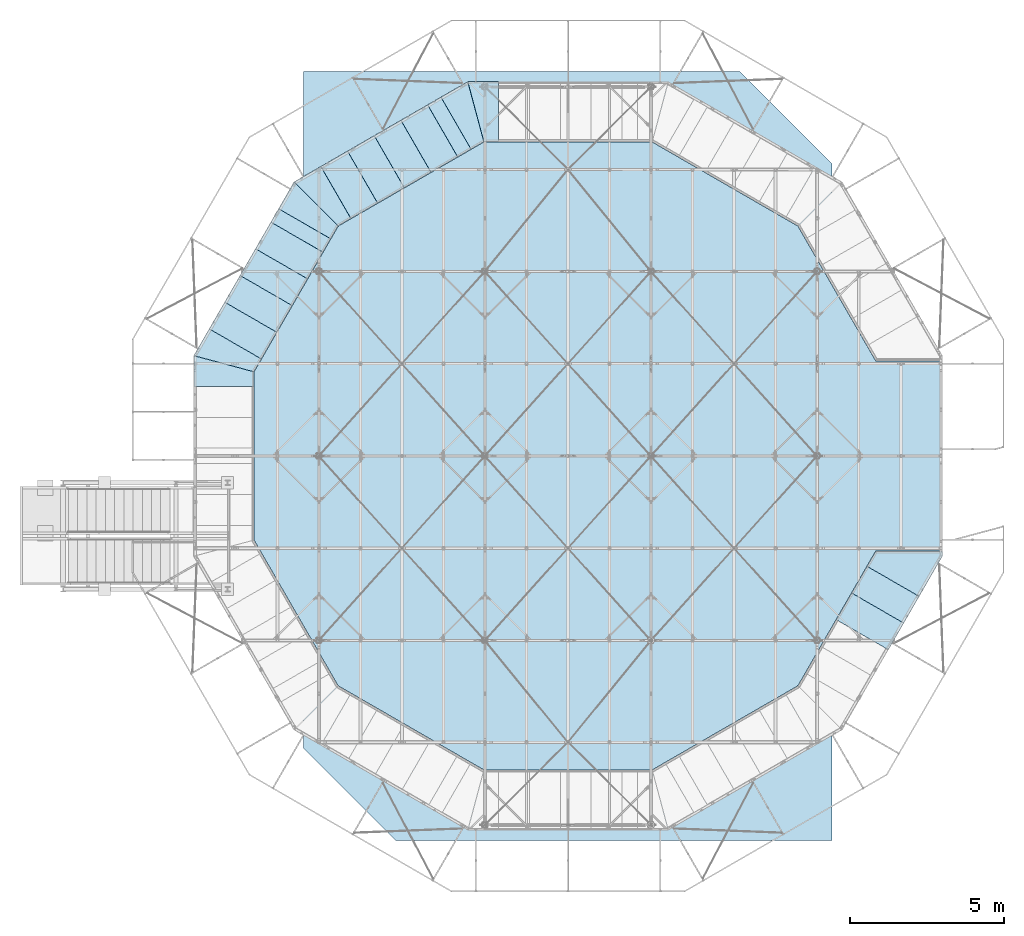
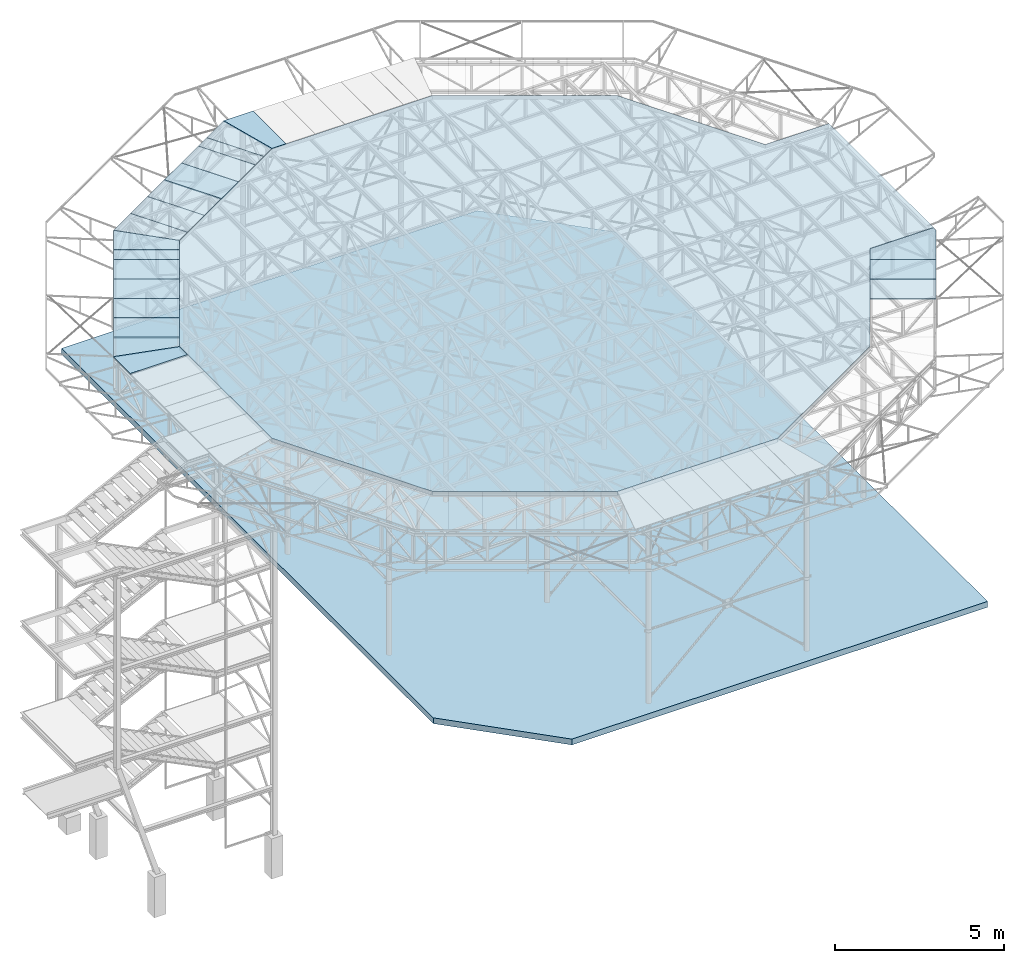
# One storey, part 32 of 132: 39 plates, 1 slab, 40 elements without a shape of their own.
"""IFC2X3 building model written with IfcOpenShell, lengths in millimetres."""

from ifc_helpers import new_model, si_unit, frame, origin_with_axes, place, context, subcontext, project, spatial, polyline, outline, extrude, material, type_object, element, aggregate, save


model = new_model("IFC2X3")

# Units and contexts
model_context = context("Model", 3, precision=1e-05, world=origin_with_axes())
body_context = subcontext(model_context, "Body", "Model", "MODEL_VIEW")
ifc_project = project(units=[si_unit("LENGTHUNIT", "METRE", prefix="MILLI"), si_unit("AREAUNIT", "SQUARE_METRE"), si_unit("VOLUMEUNIT", "CUBIC_METRE"), si_unit("MASSUNIT", "GRAM", prefix="KILO"), si_unit("TIMEUNIT", "SECOND"), si_unit("PLANEANGLEUNIT", "RADIAN"), si_unit("SOLIDANGLEUNIT", "STERADIAN"), si_unit("THERMODYNAMICTEMPERATUREUNIT", "DEGREE_CELSIUS"), si_unit("LUMINOUSINTENSITYUNIT", "LUMEN")], contexts=[model_context])

# Site, building, storey
site_placement = place(None, origin_with_axes())
site = spatial("IfcSite", under=ifc_project, at=site_placement, Name="Budowa", CompositionType="ELEMENT")
building_placement = place(site_placement, origin_with_axes())
building = spatial("IfcBuilding", under=site, at=building_placement, Name="Undefined", CompositionType="ELEMENT")
storey_placement = place(building_placement, origin_with_axes())
storey = spatial("IfcBuildingStorey", under=building, at=storey_placement, Name="Undefined", CompositionType="ELEMENT", Elevation=0.0)

# Assembly, plate
assembly_1_placement = place(storey_placement, origin_with_axes())
assembly_1 = element("IfcElementAssembly", 1, at=assembly_1_placement, inside=storey, Name="Steel Assembly", AssemblyPlace="NOTDEFINED", PredefinedType="RIGID_FRAME")
ifc_material_1 = material(Name="STEEL/S235")
plate_type_1 = type_object("IfcPlateType", Name="BL2*1461", PredefinedType="NOTDEFINED")
plate_1_placement = place(assembly_1_placement, frame((21851.4200037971, 8410.57971265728, 14031.0), z_axis=(0.0, 0.0, 1.0), x_axis=(0.866023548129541, -0.500003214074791, 0.0)))
plate_1 = element("IfcPlate", 2, at=plate_1_placement, type_object=plate_type_1, material=ifc_material_1, Name="BLACHA RYFLOWANA", ObjectType="BL2*1461", context=body_context, shape_type="SweptSolid", body=[
    extrude(outline(polyline([(0.0, 0.0), (1950.9999999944, -2.23008100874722e-09), (1951.0001220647, 1505.99999999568), (1872.65209960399, 1641.70166015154), (-0.0387191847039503, 560.493896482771), (0.0, 0.0)])), frame((0.0, 0.0, -0.999999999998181), z_axis=(0.0, 0.0, 1.0), x_axis=(1.0, 0.0, 0.0)), (0.0, 0.0, 1.0), 2.0),
])
aggregate(assembly_1, [plate_1])

assembly_2_placement = place(storey_placement, origin_with_axes())
assembly_2 = element("IfcElementAssembly", 3, at=assembly_2_placement, inside=storey, Name="Steel Assembly", AssemblyPlace="NOTDEFINED", PredefinedType="RIGID_FRAME")
plate_type_2 = type_object("IfcPlateType", Name="BL2*1000", PredefinedType="NOTDEFINED")
plate_2_placement = place(assembly_2_placement, frame((4088.83603764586, 21411.8602062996, 14031.0000000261), z_axis=(0.0, 0.0, -1.0), x_axis=(0.86604520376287, 0.499965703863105, 0.0)))
plate_2 = element("IfcPlate", 4, at=plate_2_placement, type_object=plate_type_2, material=ifc_material_1, Name="BLACHA RYFLOWANA", ObjectType="BL2*1000", context=body_context, shape_type="SweptSolid", body=[
    extrude(outline(polyline([(0.0, 0.0), (999.999999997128, 3.78349795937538e-10), (999.99999999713, 1950.9999999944), (-9.92986315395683e-09, 1950.9999999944), (0.0, 0.0)])), frame((0.0, 0.0, -0.999999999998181), z_axis=(0.0, 0.0, 1.0), x_axis=(1.0, 0.0, 0.0)), (0.0, 0.0, 1.0), 2.0),
])
aggregate(assembly_2, [plate_2])

assembly_3_placement = place(storey_placement, origin_with_axes())
assembly_3 = element("IfcElementAssembly", 5, at=assembly_3_placement, inside=storey, Name="Steel Assembly", AssemblyPlace="NOTDEFINED", PredefinedType="RIGID_FRAME")
plate_3_placement = place(assembly_3_placement, frame((4956.61333183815, 21912.8258415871, 14031.0000000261), z_axis=(0.0, 0.0, -1.0), x_axis=(0.86604520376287, 0.499965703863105, 0.0)))
plate_3 = element("IfcPlate", 6, at=plate_3_placement, type_object=plate_type_2, material=ifc_material_1, Name="BLACHA RYFLOWANA", ObjectType="BL2*1000", context=body_context, shape_type="SweptSolid", body=[
    extrude(outline(polyline([(0.0, 0.0), (999.999999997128, 3.78349795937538e-10), (999.99999999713, 1950.9999999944), (-9.92986315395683e-09, 1950.9999999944), (0.0, 0.0)])), frame((0.0, 0.0, -0.999999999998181), z_axis=(0.0, 0.0, 1.0), x_axis=(1.0, 0.0, 0.0)), (0.0, 0.0, 1.0), 2.0),
])
aggregate(assembly_3, [plate_3])

assembly_4_placement = place(storey_placement, origin_with_axes())
assembly_4 = element("IfcElementAssembly", 7, at=assembly_4_placement, inside=storey, Name="Steel Assembly", AssemblyPlace="NOTDEFINED", PredefinedType="RIGID_FRAME")
plate_4_placement = place(assembly_4_placement, frame((5824.39062602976, 22413.7914768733, 14031.0000000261), z_axis=(0.0, 0.0, -1.0), x_axis=(0.86604520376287, 0.499965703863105, 0.0)))
plate_4 = element("IfcPlate", 8, at=plate_4_placement, type_object=plate_type_2, material=ifc_material_1, Name="BLACHA RYFLOWANA", ObjectType="BL2*1000", context=body_context, shape_type="SweptSolid", body=[
    extrude(outline(polyline([(0.0, 0.0), (999.999999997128, 3.78349795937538e-10), (999.99999999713, 1950.9999999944), (-9.92986315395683e-09, 1950.9999999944), (0.0, 0.0)])), frame((0.0, 0.0, -0.999999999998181), z_axis=(0.0, 0.0, 1.0), x_axis=(1.0, 0.0, 0.0)), (0.0, 0.0, 1.0), 2.0),
])
aggregate(assembly_4, [plate_4])

assembly_5_placement = place(storey_placement, origin_with_axes())
assembly_5 = element("IfcElementAssembly", 9, at=assembly_5_placement, inside=storey, Name="Steel Assembly", AssemblyPlace="NOTDEFINED", PredefinedType="RIGID_FRAME")
plate_5_placement = place(assembly_5_placement, frame((6692.16792022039, 22914.7571121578, 14031.0000000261), z_axis=(0.0, 0.0, -1.0), x_axis=(0.86604520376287, 0.499965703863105, 0.0)))
plate_5 = element("IfcPlate", 10, at=plate_5_placement, type_object=plate_type_2, material=ifc_material_1, Name="BLACHA RYFLOWANA", ObjectType="BL2*1000", context=body_context, shape_type="SweptSolid", body=[
    extrude(outline(polyline([(0.0, 0.0), (999.999999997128, 3.78349795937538e-10), (999.99999999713, 1950.9999999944), (-9.92986315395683e-09, 1950.9999999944), (0.0, 0.0)])), frame((0.0, 0.0, -0.999999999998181), z_axis=(0.0, 0.0, 1.0), x_axis=(1.0, 0.0, 0.0)), (0.0, 0.0, 1.0), 2.0),
])
aggregate(assembly_5, [plate_5])

assembly_6_placement = place(storey_placement, origin_with_axes())
assembly_6 = element("IfcElementAssembly", 11, at=assembly_6_placement, inside=storey, Name="Steel Assembly", AssemblyPlace="NOTDEFINED", PredefinedType="RIGID_FRAME")
plate_6_placement = place(assembly_6_placement, frame((459.486653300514, 16132.8170373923, 14031.0000000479), z_axis=(0.0, 0.0, -1.0), x_axis=(0.500003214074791, 0.866023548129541, 0.0)))
plate_6 = element("IfcPlate", 12, at=plate_6_placement, type_object=plate_type_2, material=ifc_material_1, Name="BLACHA RYFLOWANA", ObjectType="BL2*1000", context=body_context, shape_type="SweptSolid", body=[
    extrude(outline(polyline([(0.0, 0.0), (999.999999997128, 3.78349795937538e-10), (999.99999999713, 1950.9999999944), (-9.92986315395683e-09, 1950.9999999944), (0.0, 0.0)])), frame((0.0, 0.0, -0.999999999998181), z_axis=(0.0, 0.0, 1.0), x_axis=(1.0, 0.0, 0.0)), (0.0, 0.0, 1.0), 2.0),
])
aggregate(assembly_6, [plate_6])

assembly_7_placement = place(storey_placement, origin_with_axes())
assembly_7 = element("IfcElementAssembly", 13, at=assembly_7_placement, inside=storey, Name="Steel Assembly", AssemblyPlace="NOTDEFINED", PredefinedType="RIGID_FRAME")
plate_7_placement = place(assembly_7_placement, frame((960.489873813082, 17000.572632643, 14031.0000000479), z_axis=(0.0, 0.0, -1.0), x_axis=(0.500003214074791, 0.866023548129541, 0.0)))
plate_7 = element("IfcPlate", 14, at=plate_7_placement, type_object=plate_type_2, material=ifc_material_1, Name="BLACHA RYFLOWANA", ObjectType="BL2*1000", context=body_context, shape_type="SweptSolid", body=[
    extrude(outline(polyline([(0.0, 0.0), (999.999999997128, 3.78349795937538e-10), (999.99999999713, 1950.9999999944), (-9.92986315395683e-09, 1950.9999999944), (0.0, 0.0)])), frame((0.0, 0.0, -0.999999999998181), z_axis=(0.0, 0.0, 1.0), x_axis=(1.0, 0.0, 0.0)), (0.0, 0.0, 1.0), 2.0),
])
aggregate(assembly_7, [plate_7])

assembly_8_placement = place(storey_placement, origin_with_axes())
assembly_8 = element("IfcElementAssembly", 15, at=assembly_8_placement, inside=storey, Name="Steel Assembly", AssemblyPlace="NOTDEFINED", PredefinedType="RIGID_FRAME")
plate_8_placement = place(assembly_8_placement, frame((1461.49309432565, 17868.3282278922, 14031.0000000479), z_axis=(0.0, 0.0, -1.0), x_axis=(0.500003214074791, 0.866023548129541, 0.0)))
plate_8 = element("IfcPlate", 16, at=plate_8_placement, type_object=plate_type_2, material=ifc_material_1, Name="BLACHA RYFLOWANA", ObjectType="BL2*1000", context=body_context, shape_type="SweptSolid", body=[
    extrude(outline(polyline([(0.0, 0.0), (999.999999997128, 3.78349795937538e-10), (999.99999999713, 1950.9999999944), (-9.92986315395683e-09, 1950.9999999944), (0.0, 0.0)])), frame((0.0, 0.0, -0.999999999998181), z_axis=(0.0, 0.0, 1.0), x_axis=(1.0, 0.0, 0.0)), (0.0, 0.0, 1.0), 2.0),
])
aggregate(assembly_8, [plate_8])

assembly_9_placement = place(storey_placement, origin_with_axes())
assembly_9 = element("IfcElementAssembly", 17, at=assembly_9_placement, inside=storey, Name="Steel Assembly", AssemblyPlace="NOTDEFINED", PredefinedType="RIGID_FRAME")
plate_9_placement = place(assembly_9_placement, frame((1962.49631483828, 18736.0838231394, 14031.0000000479), z_axis=(0.0, 0.0, -1.0), x_axis=(0.500003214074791, 0.866023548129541, 0.0)))
plate_9 = element("IfcPlate", 18, at=plate_9_placement, type_object=plate_type_2, material=ifc_material_1, Name="BLACHA RYFLOWANA", ObjectType="BL2*1000", context=body_context, shape_type="SweptSolid", body=[
    extrude(outline(polyline([(0.0, 0.0), (999.999999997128, 3.78349795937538e-10), (999.99999999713, 1950.9999999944), (-9.92986315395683e-09, 1950.9999999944), (0.0, 0.0)])), frame((0.0, 0.0, -0.999999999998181), z_axis=(0.0, 0.0, 1.0), x_axis=(1.0, 0.0, 0.0)), (0.0, 0.0, 1.0), 2.0),
])
aggregate(assembly_9, [plate_9])

assembly_10_placement = place(storey_placement, origin_with_axes())
assembly_10 = element("IfcElementAssembly", 19, at=assembly_10_placement, inside=storey, Name="Steel Assembly", AssemblyPlace="NOTDEFINED", PredefinedType="RIGID_FRAME")
plate_10_placement = place(assembly_10_placement, frame((23539.5117330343, 7432.44016693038, 14031.0), z_axis=(0.0, 0.0, -1.0), x_axis=(-0.500003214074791, -0.866023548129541, 0.0)))
plate_10 = element("IfcPlate", 20, at=plate_10_placement, type_object=plate_type_2, material=ifc_material_1, Name="BLACHA RYFLOWANA", ObjectType="BL2*1000", context=body_context, shape_type="SweptSolid", body=[
    extrude(outline(polyline([(0.0, 0.0), (999.999999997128, 3.78349795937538e-10), (999.99999999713, 1950.9999999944), (-9.92986315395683e-09, 1950.9999999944), (0.0, 0.0)])), frame((0.0, 0.0, -0.999999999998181), z_axis=(0.0, 0.0, 1.0), x_axis=(1.0, 0.0, 0.0)), (0.0, 0.0, 1.0), 2.0),
])
aggregate(assembly_10, [plate_10])

assembly_11_placement = place(storey_placement, origin_with_axes())
assembly_11 = element("IfcElementAssembly", 21, at=assembly_11_placement, inside=storey, Name="Steel Assembly", AssemblyPlace="NOTDEFINED", PredefinedType="RIGID_FRAME")
plate_11_placement = place(assembly_11_placement, frame((23038.5085125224, 6564.68457168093, 14031.0), z_axis=(0.0, 0.0, -1.0), x_axis=(-0.500003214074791, -0.866023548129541, 0.0)))
plate_11 = element("IfcPlate", 22, at=plate_11_placement, type_object=plate_type_2, material=ifc_material_1, Name="BLACHA RYFLOWANA", ObjectType="BL2*1000", context=body_context, shape_type="SweptSolid", body=[
    extrude(outline(polyline([(0.0, 0.0), (999.999999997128, 3.78349795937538e-10), (999.99999999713, 1950.9999999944), (-9.92986315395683e-09, 1950.9999999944), (0.0, 0.0)])), frame((0.0, 0.0, -0.999999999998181), z_axis=(0.0, 0.0, 1.0), x_axis=(1.0, 0.0, 0.0)), (0.0, 0.0, 1.0), 2.0),
])
aggregate(assembly_11, [plate_11])

assembly_12_placement = place(storey_placement, origin_with_axes())
assembly_12 = element("IfcElementAssembly", 23, at=assembly_12_placement, inside=storey, Name="Steel Assembly", AssemblyPlace="NOTDEFINED", PredefinedType="RIGID_FRAME")
plate_type_3 = type_object("IfcPlateType", Name="BL2*1002", PredefinedType="NOTDEFINED")
plate_12_placement = place(assembly_12_placement, frame((8969.41828278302, 21976.7536121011, 14031.0000000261), z_axis=(0.0, 0.0, 1.0), x_axis=(0.86604520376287, 0.499965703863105, 0.0)))
plate_12 = element("IfcPlate", 24, at=plate_12_placement, type_object=plate_type_3, material=ifc_material_1, Name="BLACHA RYFLOWANA", ObjectType="BL2*1002", context=body_context, shape_type="SweptSolid", body=[
    extrude(outline(polyline([(0.0, 0.0), (481.607696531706, 5.82076609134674e-10), (1002.48809814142, 1950.90051268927), (-3.37786332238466e-08, 1950.90051268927), (0.0, 0.0)])), frame((0.0, 0.0, -0.999999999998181), z_axis=(0.0, 0.0, 1.0), x_axis=(1.0, 0.0, 0.0)), (0.0, 0.0, 1.0), 2.0),
])
aggregate(assembly_12, [plate_12])

assembly_13_placement = place(storey_placement, origin_with_axes())
assembly_13 = element("IfcElementAssembly", 25, at=assembly_13_placement, inside=storey, Name="Steel Assembly", AssemblyPlace="NOTDEFINED", PredefinedType="RIGID_FRAME")
plate_13_placement = place(assembly_13_placement, frame((9869.09565694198, 22218.000512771, 14031.0000000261), z_axis=(0.0, 0.0, -1.0), x_axis=(-1.0, 0.0, 0.0)))
plate_13 = element("IfcPlate", 26, at=plate_13_placement, type_object=plate_type_3, material=ifc_material_1, Name="BLACHA RYFLOWANA", ObjectType="BL2*1002", context=body_context, shape_type="SweptSolid", body=[
    extrude(outline(polyline([(0.0, 0.0), (481.607696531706, 5.82076609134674e-10), (1002.48809814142, 1950.90051268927), (-3.37786332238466e-08, 1950.90051268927), (0.0, 0.0)])), frame((0.0, 0.0, -0.999999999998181), z_axis=(0.0, 0.0, 1.0), x_axis=(1.0, 0.0, 0.0)), (0.0, 0.0, 1.0), 2.0),
])
aggregate(assembly_13, [plate_13])

assembly_14_placement = place(storey_placement, origin_with_axes())
assembly_14 = element("IfcElementAssembly", 27, at=assembly_14_placement, inside=storey, Name="Steel Assembly", AssemblyPlace="NOTDEFINED", PredefinedType="RIGID_FRAME")
plate_14_placement = place(assembly_14_placement, frame((2147.72417326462, 15155.1291909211, 14031.0000000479), z_axis=(0.0, 0.0, -1.0), x_axis=(-0.500003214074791, -0.866023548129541, 0.0)))
plate_14 = element("IfcPlate", 28, at=plate_14_placement, type_object=plate_type_3, material=ifc_material_1, Name="BLACHA RYFLOWANA", ObjectType="BL2*1002", context=body_context, shape_type="SweptSolid", body=[
    extrude(outline(polyline([(0.0, 0.0), (481.607696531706, 5.82076609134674e-10), (1002.48809814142, 1950.90051268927), (-3.37786332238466e-08, 1950.90051268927), (0.0, 0.0)])), frame((0.0, 0.0, -0.999999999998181), z_axis=(0.0, 0.0, 1.0), x_axis=(1.0, 0.0, 0.0)), (0.0, 0.0, 1.0), 2.0),
])
aggregate(assembly_14, [plate_14])

assembly_15_placement = place(storey_placement, origin_with_axes())
assembly_15 = element("IfcElementAssembly", 29, at=assembly_15_placement, inside=storey, Name="Steel Assembly", AssemblyPlace="NOTDEFINED", PredefinedType="RIGID_FRAME")
plate_15_placement = place(assembly_15_placement, frame((4403.26129690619, 19062.5593450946, 14031.0000000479), z_axis=(0.0, 0.0, 1.0), x_axis=(0.500336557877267, 0.865831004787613, 0.0)))
plate_15 = element("IfcPlate", 30, at=plate_15_placement, type_object=plate_type_3, material=ifc_material_1, Name="BLACHA RYFLOWANA", ObjectType="BL2*1002", context=body_context, shape_type="SweptSolid", body=[
    extrude(outline(polyline([(0.0, 0.0), (481.607696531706, 5.82076609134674e-10), (1002.48809814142, 1950.90051268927), (-3.37786332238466e-08, 1950.90051268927), (0.0, 0.0)])), frame((0.0, 0.0, -0.999999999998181), z_axis=(0.0, 0.0, 1.0), x_axis=(1.0, 0.0, 0.0)), (0.0, 0.0, 1.0), 2.0),
])
aggregate(assembly_15, [plate_15])

assembly_16_placement = place(storey_placement, origin_with_axes())
assembly_16 = element("IfcElementAssembly", 31, at=assembly_16_placement, inside=storey, Name="Steel Assembly", AssemblyPlace="NOTDEFINED", PredefinedType="RIGID_FRAME")
plate_16_placement = place(assembly_16_placement, frame((5061.98801008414, 19721.004006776, 14031.0000000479), z_axis=(0.0, 0.0, -1.0), x_axis=(-0.866045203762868, -0.499965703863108, 0.0)))
plate_16 = element("IfcPlate", 32, at=plate_16_placement, type_object=plate_type_3, material=ifc_material_1, Name="BLACHA RYFLOWANA", ObjectType="BL2*1002", context=body_context, shape_type="SweptSolid", body=[
    extrude(outline(polyline([(0.0, 0.0), (481.607696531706, 5.82076609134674e-10), (1002.48809814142, 1950.90051268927), (-3.37786332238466e-08, 1950.90051268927), (0.0, 0.0)])), frame((0.0, 0.0, -0.999999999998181), z_axis=(0.0, 0.0, 1.0), x_axis=(1.0, 0.0, 0.0)), (0.0, 0.0, 1.0), 2.0),
])
aggregate(assembly_16, [plate_16])

assembly_17_placement = place(storey_placement, origin_with_axes())
assembly_17 = element("IfcElementAssembly", 33, at=assembly_17_placement, inside=storey, Name="Steel Assembly", AssemblyPlace="NOTDEFINED", PredefinedType="RIGID_FRAME")
plate_17_placement = place(assembly_17_placement, frame((1906.99979081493, 14255.4675914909, 14031.0000000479), z_axis=(0.0, 0.0, 1.0), x_axis=(0.000358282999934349, 0.999999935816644, 0.0)))
plate_17 = element("IfcPlate", 34, at=plate_17_placement, type_object=plate_type_3, material=ifc_material_1, Name="BLACHA RYFLOWANA", ObjectType="BL2*1002", context=body_context, shape_type="SweptSolid", body=[
    extrude(outline(polyline([(0.0, 0.0), (481.607696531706, 5.82076609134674e-10), (1002.48809814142, 1950.90051268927), (-3.37786332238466e-08, 1950.90051268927), (0.0, 0.0)])), frame((0.0, 0.0, -0.999999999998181), z_axis=(0.0, 0.0, 1.0), x_axis=(1.0, 0.0, 0.0)), (0.0, 0.0, 1.0), 2.0),
])
aggregate(assembly_17, [plate_17])

assembly_18_placement = place(storey_placement, origin_with_axes())
assembly_18 = element("IfcElementAssembly", 35, at=assembly_18_placement, inside=storey, Name="Steel Assembly", AssemblyPlace="NOTDEFINED", PredefinedType="RIGID_FRAME")
plate_type_4 = type_object("IfcPlateType", Name="BL2*500", PredefinedType="NOTDEFINED")
plate_18_placement = place(assembly_18_placement, frame((7559.94521441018, 23415.7227474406, 14031.0000000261), z_axis=(0.0, 0.0, -1.0), x_axis=(0.86604520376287, 0.499965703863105, 0.0)))
plate_18 = element("IfcPlate", 36, at=plate_18_placement, type_object=plate_type_4, material=ifc_material_1, Name="BLACHA RYFLOWANA", ObjectType="BL2*500", context=body_context, shape_type="SweptSolid", body=[
    extrude(outline(polyline([(0.0, 0.0), (499.999999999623, 8.51287040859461e-10), (499.999999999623, 1950.99999999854), (-9.92986315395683e-09, 1950.9999999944), (0.0, 0.0)])), frame((0.0, 0.0, -0.999999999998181), z_axis=(0.0, 0.0, 1.0), x_axis=(1.0, 0.0, 0.0)), (0.0, 0.0, 1.0), 2.0),
])
aggregate(assembly_18, [plate_18])

assembly_19_placement = place(storey_placement, origin_with_axes())
assembly_19 = element("IfcElementAssembly", 37, at=assembly_19_placement, inside=storey, Name="Steel Assembly", AssemblyPlace="NOTDEFINED", PredefinedType="RIGID_FRAME")
plate_19_placement = place(assembly_19_placement, frame((2463.49953535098, 19603.8394183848, 14031.0000000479), z_axis=(0.0, 0.0, -1.0), x_axis=(0.500003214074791, 0.866023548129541, 0.0)))
plate_19 = element("IfcPlate", 38, at=plate_19_placement, type_object=plate_type_4, material=ifc_material_1, Name="BLACHA RYFLOWANA", ObjectType="BL2*500", context=body_context, shape_type="SweptSolid", body=[
    extrude(outline(polyline([(0.0, 0.0), (499.999999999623, 8.51287040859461e-10), (499.999999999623, 1950.99999999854), (-9.92986315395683e-09, 1950.9999999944), (0.0, 0.0)])), frame((0.0, 0.0, -0.999999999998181), z_axis=(0.0, 0.0, 1.0), x_axis=(1.0, 0.0, 0.0)), (0.0, 0.0, 1.0), 2.0),
])
aggregate(assembly_19, [plate_19])

assembly_20_placement = place(storey_placement, origin_with_axes())
assembly_20 = element("IfcElementAssembly", 39, at=assembly_20_placement, inside=storey, Name="Steel Assembly", AssemblyPlace="NOTDEFINED", PredefinedType="RIGID_FRAME")
plate_type_5 = type_object("IfcPlateType", Name="BL40*1461", PredefinedType="NOTDEFINED")
plate_20_placement = place(assembly_20_placement, frame((21851.4200037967, 8410.57971265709, 14010.0), z_axis=(0.0, 0.0, 1.0), x_axis=(0.866023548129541, -0.500003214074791, 0.0)))
plate_20 = element("IfcPlate", 40, at=plate_20_placement, type_object=plate_type_5, material=ifc_material_1, Name="KRATA", ObjectType="BL40*1461", context=body_context, shape_type="SweptSolid", body=[
    extrude(outline(polyline([(0.0, 0.0), (1950.9999999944, -2.23008100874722e-09), (1951.0001220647, 1505.99999999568), (1872.65209960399, 1641.70166015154), (-0.0387191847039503, 560.493896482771), (0.0, 0.0)])), frame((0.0, 0.0, -20.0), z_axis=(0.0, 0.0, 1.0), x_axis=(1.0, 0.0, 0.0)), (0.0, 0.0, 1.0), 40.0),
])
aggregate(assembly_20, [plate_20])

assembly_21_placement = place(storey_placement, origin_with_axes())
assembly_21 = element("IfcElementAssembly", 41, at=assembly_21_placement, inside=storey, Name="Steel Assembly", AssemblyPlace="NOTDEFINED", PredefinedType="RIGID_FRAME")
plate_type_6 = type_object("IfcPlateType", Name="BL40*1000", PredefinedType="NOTDEFINED")
plate_21_placement = place(assembly_21_placement, frame((23539.5117330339, 7432.4401669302, 14010.0), z_axis=(0.0, 0.0, -1.0), x_axis=(-0.500003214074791, -0.866023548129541, 0.0)))
plate_21 = element("IfcPlate", 42, at=plate_21_placement, type_object=plate_type_6, material=ifc_material_1, Name="KRATA", ObjectType="BL40*1000", context=body_context, shape_type="SweptSolid", body=[
    extrude(outline(polyline([(0.0, 0.0), (999.999999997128, 3.78349795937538e-10), (999.99999999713, 1950.9999999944), (-9.92986315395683e-09, 1950.9999999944), (0.0, 0.0)])), frame((0.0, 0.0, -20.0), z_axis=(0.0, 0.0, 1.0), x_axis=(1.0, 0.0, 0.0)), (0.0, 0.0, 1.0), 40.0),
])
aggregate(assembly_21, [plate_21])

assembly_22_placement = place(storey_placement, origin_with_axes())
assembly_22 = element("IfcElementAssembly", 43, at=assembly_22_placement, inside=storey, Name="Steel Assembly", AssemblyPlace="NOTDEFINED", PredefinedType="RIGID_FRAME")
plate_22_placement = place(assembly_22_placement, frame((23038.508512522, 6564.68457168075, 14010.0), z_axis=(0.0, 0.0, -1.0), x_axis=(-0.500003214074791, -0.866023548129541, 0.0)))
plate_22 = element("IfcPlate", 44, at=plate_22_placement, type_object=plate_type_6, material=ifc_material_1, Name="KRATA", ObjectType="BL40*1000", context=body_context, shape_type="SweptSolid", body=[
    extrude(outline(polyline([(0.0, 0.0), (999.999999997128, 3.78349795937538e-10), (999.99999999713, 1950.9999999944), (-9.92986315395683e-09, 1950.9999999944), (0.0, 0.0)])), frame((0.0, 0.0, -20.0), z_axis=(0.0, 0.0, 1.0), x_axis=(1.0, 0.0, 0.0)), (0.0, 0.0, 1.0), 40.0),
])
aggregate(assembly_22, [plate_22])

assembly_23_placement = place(storey_placement, origin_with_axes())
assembly_23 = element("IfcElementAssembly", 45, at=assembly_23_placement, inside=storey, Name="Steel Assembly", AssemblyPlace="NOTDEFINED", PredefinedType="RIGID_FRAME")
plate_23_placement = place(assembly_23_placement, frame((459.486653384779, 16132.8170373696, 14010.0), z_axis=(0.0, 0.0, -1.0), x_axis=(0.500003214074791, 0.866023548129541, 0.0)))
plate_23 = element("IfcPlate", 46, at=plate_23_placement, type_object=plate_type_6, material=ifc_material_1, Name="KRATA", ObjectType="BL40*1000", context=body_context, shape_type="SweptSolid", body=[
    extrude(outline(polyline([(0.0, 0.0), (999.999999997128, 3.78349795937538e-10), (999.99999999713, 1950.9999999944), (-9.92986315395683e-09, 1950.9999999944), (0.0, 0.0)])), frame((0.0, 0.0, -20.0), z_axis=(0.0, 0.0, 1.0), x_axis=(1.0, 0.0, 0.0)), (0.0, 0.0, 1.0), 40.0),
])
aggregate(assembly_23, [plate_23])

assembly_24_placement = place(storey_placement, origin_with_axes())
assembly_24 = element("IfcElementAssembly", 47, at=assembly_24_placement, inside=storey, Name="Steel Assembly", AssemblyPlace="NOTDEFINED", PredefinedType="RIGID_FRAME")
plate_24_placement = place(assembly_24_placement, frame((960.489873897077, 17000.5726326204, 14010.0), z_axis=(0.0, 0.0, -1.0), x_axis=(0.500003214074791, 0.866023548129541, 0.0)))
plate_24 = element("IfcPlate", 48, at=plate_24_placement, type_object=plate_type_6, material=ifc_material_1, Name="KRATA", ObjectType="BL40*1000", context=body_context, shape_type="SweptSolid", body=[
    extrude(outline(polyline([(0.0, 0.0), (999.999999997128, 3.78349795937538e-10), (999.99999999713, 1950.9999999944), (-9.92986315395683e-09, 1950.9999999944), (0.0, 0.0)])), frame((0.0, 0.0, -20.0), z_axis=(0.0, 0.0, 1.0), x_axis=(1.0, 0.0, 0.0)), (0.0, 0.0, 1.0), 40.0),
])
aggregate(assembly_24, [plate_24])

assembly_25_placement = place(storey_placement, origin_with_axes())
assembly_25 = element("IfcElementAssembly", 49, at=assembly_25_placement, inside=storey, Name="Steel Assembly", AssemblyPlace="NOTDEFINED", PredefinedType="RIGID_FRAME")
plate_25_placement = place(assembly_25_placement, frame((1461.49309440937, 17868.3282278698, 14010.0), z_axis=(0.0, 0.0, -1.0), x_axis=(0.500003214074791, 0.866023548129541, 0.0)))
plate_25 = element("IfcPlate", 50, at=plate_25_placement, type_object=plate_type_6, material=ifc_material_1, Name="KRATA", ObjectType="BL40*1000", context=body_context, shape_type="SweptSolid", body=[
    extrude(outline(polyline([(0.0, 0.0), (999.999999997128, 3.78349795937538e-10), (999.99999999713, 1950.9999999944), (-9.92986315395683e-09, 1950.9999999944), (0.0, 0.0)])), frame((0.0, 0.0, -20.0), z_axis=(0.0, 0.0, 1.0), x_axis=(1.0, 0.0, 0.0)), (0.0, 0.0, 1.0), 40.0),
])
aggregate(assembly_25, [plate_25])

assembly_26_placement = place(storey_placement, origin_with_axes())
assembly_26 = element("IfcElementAssembly", 51, at=assembly_26_placement, inside=storey, Name="Steel Assembly", AssemblyPlace="NOTDEFINED", PredefinedType="RIGID_FRAME")
plate_26_placement = place(assembly_26_placement, frame((1962.49631492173, 18736.0838231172, 14010.0), z_axis=(0.0, 0.0, -1.0), x_axis=(0.500003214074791, 0.866023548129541, 0.0)))
plate_26 = element("IfcPlate", 52, at=plate_26_placement, type_object=plate_type_6, material=ifc_material_1, Name="KRATA", ObjectType="BL40*1000", context=body_context, shape_type="SweptSolid", body=[
    extrude(outline(polyline([(0.0, 0.0), (999.999999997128, 3.78349795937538e-10), (999.99999999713, 1950.9999999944), (-9.92986315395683e-09, 1950.9999999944), (0.0, 0.0)])), frame((0.0, 0.0, -20.0), z_axis=(0.0, 0.0, 1.0), x_axis=(1.0, 0.0, 0.0)), (0.0, 0.0, 1.0), 40.0),
])
aggregate(assembly_26, [plate_26])

assembly_27_placement = place(storey_placement, origin_with_axes())
assembly_27 = element("IfcElementAssembly", 53, at=assembly_27_placement, inside=storey, Name="Steel Assembly", AssemblyPlace="NOTDEFINED", PredefinedType="RIGID_FRAME")
plate_27_placement = place(assembly_27_placement, frame((4088.83603772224, 21411.860206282, 14010.0), z_axis=(0.0, 0.0, -1.0), x_axis=(0.86604520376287, 0.499965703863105, 0.0)))
plate_27 = element("IfcPlate", 54, at=plate_27_placement, type_object=plate_type_6, material=ifc_material_1, Name="KRATA", ObjectType="BL40*1000", context=body_context, shape_type="SweptSolid", body=[
    extrude(outline(polyline([(0.0, 0.0), (999.999999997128, 3.78349795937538e-10), (999.99999999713, 1950.9999999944), (-9.92986315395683e-09, 1950.9999999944), (0.0, 0.0)])), frame((0.0, 0.0, -20.0), z_axis=(0.0, 0.0, 1.0), x_axis=(1.0, 0.0, 0.0)), (0.0, 0.0, 1.0), 40.0),
])
aggregate(assembly_27, [plate_27])

assembly_28_placement = place(storey_placement, origin_with_axes())
assembly_28 = element("IfcElementAssembly", 55, at=assembly_28_placement, inside=storey, Name="Steel Assembly", AssemblyPlace="NOTDEFINED", PredefinedType="RIGID_FRAME")
plate_28_placement = place(assembly_28_placement, frame((4956.61333191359, 21912.8258415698, 14010.0), z_axis=(0.0, 0.0, -1.0), x_axis=(0.86604520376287, 0.499965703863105, 0.0)))
plate_28 = element("IfcPlate", 56, at=plate_28_placement, type_object=plate_type_6, material=ifc_material_1, Name="KRATA", ObjectType="BL40*1000", context=body_context, shape_type="SweptSolid", body=[
    extrude(outline(polyline([(0.0, 0.0), (999.999999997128, 3.78349795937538e-10), (999.99999999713, 1950.9999999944), (-9.92986315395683e-09, 1950.9999999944), (0.0, 0.0)])), frame((0.0, 0.0, -20.0), z_axis=(0.0, 0.0, 1.0), x_axis=(1.0, 0.0, 0.0)), (0.0, 0.0, 1.0), 40.0),
])
aggregate(assembly_28, [plate_28])

assembly_29_placement = place(storey_placement, origin_with_axes())
assembly_29 = element("IfcElementAssembly", 57, at=assembly_29_placement, inside=storey, Name="Steel Assembly", AssemblyPlace="NOTDEFINED", PredefinedType="RIGID_FRAME")
plate_29_placement = place(assembly_29_placement, frame((5824.39062610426, 22413.7914768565, 14010.0), z_axis=(0.0, 0.0, -1.0), x_axis=(0.86604520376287, 0.499965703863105, 0.0)))
plate_29 = element("IfcPlate", 58, at=plate_29_placement, type_object=plate_type_6, material=ifc_material_1, Name="KRATA", ObjectType="BL40*1000", context=body_context, shape_type="SweptSolid", body=[
    extrude(outline(polyline([(0.0, 0.0), (999.999999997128, 3.78349795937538e-10), (999.99999999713, 1950.9999999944), (-9.92986315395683e-09, 1950.9999999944), (0.0, 0.0)])), frame((0.0, 0.0, -20.0), z_axis=(0.0, 0.0, 1.0), x_axis=(1.0, 0.0, 0.0)), (0.0, 0.0, 1.0), 40.0),
])
aggregate(assembly_29, [plate_29])

assembly_30_placement = place(storey_placement, origin_with_axes())
assembly_30 = element("IfcElementAssembly", 59, at=assembly_30_placement, inside=storey, Name="Steel Assembly", AssemblyPlace="NOTDEFINED", PredefinedType="RIGID_FRAME")
plate_30_placement = place(assembly_30_placement, frame((6692.16792029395, 22914.7571121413, 14010.0), z_axis=(0.0, 0.0, -1.0), x_axis=(0.86604520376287, 0.499965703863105, 0.0)))
plate_30 = element("IfcPlate", 60, at=plate_30_placement, type_object=plate_type_6, material=ifc_material_1, Name="KRATA", ObjectType="BL40*1000", context=body_context, shape_type="SweptSolid", body=[
    extrude(outline(polyline([(0.0, 0.0), (999.999999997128, 3.78349795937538e-10), (999.99999999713, 1950.9999999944), (-9.92986315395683e-09, 1950.9999999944), (0.0, 0.0)])), frame((0.0, 0.0, -20.0), z_axis=(0.0, 0.0, 1.0), x_axis=(1.0, 0.0, 0.0)), (0.0, 0.0, 1.0), 40.0),
])
aggregate(assembly_30, [plate_30])

assembly_31_placement = place(storey_placement, origin_with_axes())
assembly_31 = element("IfcElementAssembly", 61, at=assembly_31_placement, inside=storey, Name="Steel Assembly", AssemblyPlace="NOTDEFINED", PredefinedType="RIGID_FRAME")
plate_type_7 = type_object("IfcPlateType", Name="BL40*1002", PredefinedType="NOTDEFINED")
plate_31_placement = place(assembly_31_placement, frame((2147.72417334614, 15155.1291908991, 14010.0), z_axis=(0.0, 0.0, -1.0), x_axis=(-0.500003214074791, -0.866023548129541, 0.0)))
plate_31 = element("IfcPlate", 62, at=plate_31_placement, type_object=plate_type_7, material=ifc_material_1, Name="KRATA", ObjectType="BL40*1002", context=body_context, shape_type="SweptSolid", body=[
    extrude(outline(polyline([(0.0, 0.0), (481.607696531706, 5.82076609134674e-10), (1002.48809814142, 1950.90051268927), (-3.37786332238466e-08, 1950.90051268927), (0.0, 0.0)])), frame((0.0, 0.0, -20.0), z_axis=(0.0, 0.0, 1.0), x_axis=(1.0, 0.0, 0.0)), (0.0, 0.0, 1.0), 40.0),
])
aggregate(assembly_31, [plate_31])

assembly_32_placement = place(storey_placement, origin_with_axes())
assembly_32 = element("IfcElementAssembly", 63, at=assembly_32_placement, inside=storey, Name="Steel Assembly", AssemblyPlace="NOTDEFINED", PredefinedType="RIGID_FRAME")
plate_32_placement = place(assembly_32_placement, frame((8969.41828285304, 21976.7536120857, 14010.0), z_axis=(0.0, 0.0, 1.0), x_axis=(0.86604520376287, 0.499965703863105, 0.0)))
plate_32 = element("IfcPlate", 64, at=plate_32_placement, type_object=plate_type_7, material=ifc_material_1, Name="KRATA", ObjectType="BL40*1002", context=body_context, shape_type="SweptSolid", body=[
    extrude(outline(polyline([(0.0, 0.0), (481.607696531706, 5.82076609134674e-10), (1002.48809814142, 1950.90051268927), (-3.37786332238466e-08, 1950.90051268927), (0.0, 0.0)])), frame((0.0, 0.0, -20.0), z_axis=(0.0, 0.0, 1.0), x_axis=(1.0, 0.0, 0.0)), (0.0, 0.0, 1.0), 40.0),
])
aggregate(assembly_32, [plate_32])

assembly_33_placement = place(storey_placement, origin_with_axes())
assembly_33 = element("IfcElementAssembly", 65, at=assembly_33_placement, inside=storey, Name="Steel Assembly", AssemblyPlace="NOTDEFINED", PredefinedType="RIGID_FRAME")
plate_33_placement = place(assembly_33_placement, frame((4403.26129698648, 19062.5593450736, 14010.0), z_axis=(0.0, 0.0, 1.0), x_axis=(0.500336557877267, 0.865831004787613, 0.0)))
plate_33 = element("IfcPlate", 66, at=plate_33_placement, type_object=plate_type_7, material=ifc_material_1, Name="KRATA", ObjectType="BL40*1002", context=body_context, shape_type="SweptSolid", body=[
    extrude(outline(polyline([(0.0, 0.0), (481.607696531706, 5.82076609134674e-10), (1002.48809814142, 1950.90051268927), (-3.37786332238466e-08, 1950.90051268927), (0.0, 0.0)])), frame((0.0, 0.0, -20.0), z_axis=(0.0, 0.0, 1.0), x_axis=(1.0, 0.0, 0.0)), (0.0, 0.0, 1.0), 40.0),
])
aggregate(assembly_33, [plate_33])

assembly_34_placement = place(storey_placement, origin_with_axes())
assembly_34 = element("IfcElementAssembly", 67, at=assembly_34_placement, inside=storey, Name="Steel Assembly", AssemblyPlace="NOTDEFINED", PredefinedType="RIGID_FRAME")
plate_34_placement = place(assembly_34_placement, frame((5061.98801016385, 19721.0040067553, 14010.0), z_axis=(0.0, 0.0, -1.0), x_axis=(-0.866045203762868, -0.499965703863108, 0.0)))
plate_34 = element("IfcPlate", 68, at=plate_34_placement, type_object=plate_type_7, material=ifc_material_1, Name="KRATA", ObjectType="BL40*1002", context=body_context, shape_type="SweptSolid", body=[
    extrude(outline(polyline([(0.0, 0.0), (481.607696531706, 5.82076609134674e-10), (1002.48809814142, 1950.90051268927), (-3.37786332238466e-08, 1950.90051268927), (0.0, 0.0)])), frame((0.0, 0.0, -20.0), z_axis=(0.0, 0.0, 1.0), x_axis=(1.0, 0.0, 0.0)), (0.0, 0.0, 1.0), 40.0),
])
aggregate(assembly_34, [plate_34])

assembly_35_placement = place(storey_placement, origin_with_axes())
assembly_35 = element("IfcElementAssembly", 69, at=assembly_35_placement, inside=storey, Name="Steel Assembly", AssemblyPlace="NOTDEFINED", PredefinedType="RIGID_FRAME")
plate_35_placement = place(assembly_35_placement, frame((1906.99979089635, 14255.4675914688, 14010.0), z_axis=(0.0, 0.0, 1.0), x_axis=(0.000358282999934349, 0.999999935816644, 0.0)))
plate_35 = element("IfcPlate", 70, at=plate_35_placement, type_object=plate_type_7, material=ifc_material_1, Name="KRATA", ObjectType="BL40*1002", context=body_context, shape_type="SweptSolid", body=[
    extrude(outline(polyline([(0.0, 0.0), (481.607696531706, 5.82076609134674e-10), (1002.48809814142, 1950.90051268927), (-3.37786332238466e-08, 1950.90051268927), (0.0, 0.0)])), frame((0.0, 0.0, -20.0), z_axis=(0.0, 0.0, 1.0), x_axis=(1.0, 0.0, 0.0)), (0.0, 0.0, 1.0), 40.0),
])
aggregate(assembly_35, [plate_35])

assembly_36_placement = place(storey_placement, origin_with_axes())
assembly_36 = element("IfcElementAssembly", 71, at=assembly_36_placement, inside=storey, Name="Steel Assembly", AssemblyPlace="NOTDEFINED", PredefinedType="RIGID_FRAME")
plate_36_placement = place(assembly_36_placement, frame((9869.0956570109, 22218.0005127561, 14010.0), z_axis=(0.0, 0.0, -1.0), x_axis=(-1.0, 0.0, 0.0)))
plate_36 = element("IfcPlate", 72, at=plate_36_placement, type_object=plate_type_7, material=ifc_material_1, Name="KRATA", ObjectType="BL40*1002", context=body_context, shape_type="SweptSolid", body=[
    extrude(outline(polyline([(0.0, 0.0), (481.607696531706, 5.82076609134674e-10), (1002.48809814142, 1950.90051268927), (-3.37786332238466e-08, 1950.90051268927), (0.0, 0.0)])), frame((0.0, 0.0, -20.0), z_axis=(0.0, 0.0, 1.0), x_axis=(1.0, 0.0, 0.0)), (0.0, 0.0, 1.0), 40.0),
])
aggregate(assembly_36, [plate_36])

assembly_37_placement = place(storey_placement, origin_with_axes())
assembly_37 = element("IfcElementAssembly", 73, at=assembly_37_placement, inside=storey, Name="Steel Assembly", AssemblyPlace="NOTDEFINED", PredefinedType="RIGID_FRAME")
plate_type_8 = type_object("IfcPlateType", Name="BL40*500", PredefinedType="NOTDEFINED")
plate_37_placement = place(assembly_37_placement, frame((2463.49953543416, 19603.8394183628, 14010.0), z_axis=(0.0, 0.0, -1.0), x_axis=(0.500003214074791, 0.866023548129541, 0.0)))
plate_37 = element("IfcPlate", 74, at=plate_37_placement, type_object=plate_type_8, material=ifc_material_1, Name="KRATA", ObjectType="BL40*500", context=body_context, shape_type="SweptSolid", body=[
    extrude(outline(polyline([(0.0, 0.0), (499.999999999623, 8.51287040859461e-10), (499.999999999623, 1950.99999999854), (-9.92986315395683e-09, 1950.9999999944), (0.0, 0.0)])), frame((0.0, 0.0, -20.0), z_axis=(0.0, 0.0, 1.0), x_axis=(1.0, 0.0, 0.0)), (0.0, 0.0, 1.0), 40.0),
])
aggregate(assembly_37, [plate_37])

assembly_38_placement = place(storey_placement, origin_with_axes())
assembly_38 = element("IfcElementAssembly", 75, at=assembly_38_placement, inside=storey, Name="Steel Assembly", AssemblyPlace="NOTDEFINED", PredefinedType="RIGID_FRAME")
plate_38_placement = place(assembly_38_placement, frame((7559.94521448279, 23415.7227474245, 14010.0), z_axis=(0.0, 0.0, -1.0), x_axis=(0.86604520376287, 0.499965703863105, 0.0)))
plate_38 = element("IfcPlate", 76, at=plate_38_placement, type_object=plate_type_8, material=ifc_material_1, Name="KRATA", ObjectType="BL40*500", context=body_context, shape_type="SweptSolid", body=[
    extrude(outline(polyline([(0.0, 0.0), (499.999999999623, 8.51287040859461e-10), (499.999999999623, 1950.99999999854), (-9.92986315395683e-09, 1950.9999999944), (0.0, 0.0)])), frame((0.0, 0.0, -20.0), z_axis=(0.0, 0.0, 1.0), x_axis=(1.0, 0.0, 0.0)), (0.0, 0.0, 1.0), 40.0),
])
aggregate(assembly_38, [plate_38])

# Assembly, slab
assembly_39_placement = place(storey_placement, origin_with_axes())
assembly_39 = element("IfcElementAssembly", 77, at=assembly_39_placement, inside=storey, Name="CONCRETE_SLAB", AssemblyPlace="NOTDEFINED", PredefinedType="REINFORCEMENT_UNIT")
ifc_material_2 = material(Name="CONCRETE/C25/30")
slab_type = type_object("IfcSlabType", Name="150*22384", PredefinedType="NOTDEFINED")
slab_placement = place(assembly_39_placement, frame((9389.50719316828, 1791.00052295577, 13955.0), z_axis=(0.0, 0.0, 1.0), x_axis=(1.0, 0.0, 0.0)))
slab = element("IfcSlab", 78, at=slab_placement, type_object=slab_type, material=ifc_material_2, Name="CONCRETE_SLAB", ObjectType="150*22384", PredefinedType="FLOOR", context=body_context, shape_type="SweptSolid", body=[
    extrude(outline(polyline([(0.0, 0.0), (5470.986328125, 2.56568455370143e-09), (10209.0009765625, 2735.4931640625), (12736.931640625, 7113.99951171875), (14910.4931640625, 7113.99951171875), (14910.4931640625, 13303.7998046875), (12737.046875, 13303.7998046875), (10209.0009765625, 17682.505859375), (5470.986328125, 20418.0), (-1.11054760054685e-07, 20418.0), (-4738.01416015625, 17682.505859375), (-7473.50732421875, 12944.4921875), (-7473.50732421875, 7473.5068359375), (-4738.01416015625, 2735.4931640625), (0.0, 0.0)])), frame((0.0, 0.0, -75.0), z_axis=(0.0, 0.0, 1.0), x_axis=(1.0, 0.0, 0.0)), (0.0, 0.0, 1.0), 150.0),
])
aggregate(assembly_39, [slab])

# Assembly, plate
assembly_40_placement = place(storey_placement, origin_with_axes())
assembly_40 = element("IfcElementAssembly", 79, at=assembly_40_placement, inside=storey, Name="Steel Assembly", AssemblyPlace="NOTDEFINED", PredefinedType="NOTDEFINED")
ifc_material_3 = material(Name="MISCELLANEOUS/DUMMY")
plate_type_9 = type_object("IfcPlateType", Name="210*17200", PredefinedType="NOTDEFINED")
plate_39_placement = place(assembly_40_placement, frame((3514.99999986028, 24500.0000000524, 7376.00039672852), z_axis=(0.0, 0.0, 1.0), x_axis=(0.0, -1.0, 0.0)))
plate_39 = element("IfcPlate", 80, at=plate_39_placement, type_object=plate_type_9, material=ifc_material_3, Name="CONCRETE_SLAB", ObjectType="210*17200", context=body_context, shape_type="SweptSolid", body=[
    extrude(outline(polyline([(0.0, 0.0), (22000.0, -3.20142135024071e-12), (25000.0, 3000.0), (25000.0, 17200.0), (3000.0, 17200.0), (-3.00344761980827e-12, 14200.0), (0.0, 0.0)])), frame((0.0, 0.0, -105.0), z_axis=(0.0, 0.0, 1.0), x_axis=(1.0, 0.0, 0.0)), (0.0, 0.0, 1.0), 210.0),
])
aggregate(assembly_40, [plate_39])

save(model, "model.ifc")
